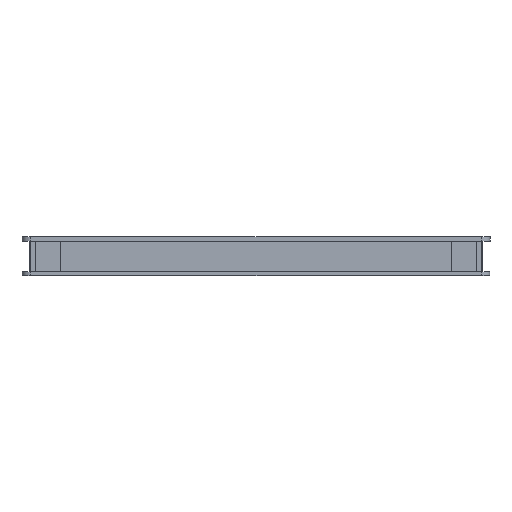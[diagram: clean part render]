
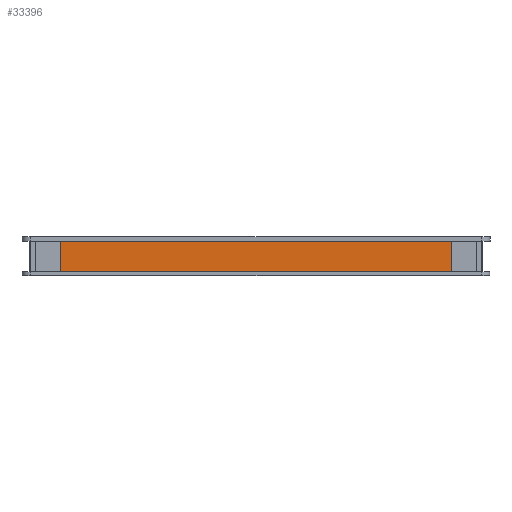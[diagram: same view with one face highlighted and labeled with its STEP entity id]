
A CAD part, front view. The second image highlights one B-rep face of the part: STEP entity #33396.
In plain terms, the highlighted planar face has unit normal (0, -1, 0).
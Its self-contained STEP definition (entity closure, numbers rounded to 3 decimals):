
#729 = FACE_OUTER_BOUND ( 'NONE', #33781, .T. ) ;
#2299 = CARTESIAN_POINT ( 'NONE',  ( 147.017, -255.14, -131.045 ) ) ;
#3261 = VECTOR ( 'NONE', #39197, 1000. ) ;
#3722 = LINE ( 'NONE', #39726, #3261 ) ;
#3903 = CARTESIAN_POINT ( 'NONE',  ( -135.983, -255.14, -111.545 ) ) ;
#3938 = EDGE_CURVE ( 'NONE', #24381, #16056, #23691, .T. ) ;
#5213 = EDGE_CURVE ( 'NONE', #19482, #24381, #14927, .T. ) ;
#9142 = DIRECTION ( 'NONE',  ( 1., 0., 0. ) ) ;
#10937 = AXIS2_PLACEMENT_3D ( 'NONE', #3903, #14163, #35179 ) ;
#11438 = DIRECTION ( 'NONE',  ( 0., 0., -1. ) ) ;
#14163 = DIRECTION ( 'NONE',  ( 0., 1., 0. ) ) ;
#14468 = CARTESIAN_POINT ( 'NONE',  ( -418.983, -255.14, -131.045 ) ) ;
#14927 = LINE ( 'NONE', #32797, #24076 ) ;
#16056 = VERTEX_POINT ( 'NONE', #35306 ) ;
#16227 = PLANE ( 'NONE',  #10937 ) ;
#17766 = EDGE_CURVE ( 'NONE', #16056, #35774, #19297, .T. ) ;
#18721 = EDGE_CURVE ( 'NONE', #35774, #19482, #3722, .T. ) ;
#19297 = LINE ( 'NONE', #2299, #34702 ) ;
#19482 = VERTEX_POINT ( 'NONE', #34309 ) ;
#20778 = VECTOR ( 'NONE', #9142, 1000. ) ;
#23691 = LINE ( 'NONE', #31012, #20778 ) ;
#23870 = DIRECTION ( 'NONE',  ( 0., 0., 1. ) ) ;
#24076 = VECTOR ( 'NONE', #11438, 1000. ) ;
#24381 = VERTEX_POINT ( 'NONE', #14468 ) ;
#25206 = ORIENTED_EDGE ( 'NONE', *, *, #18721, .T. ) ;
#29504 = ORIENTED_EDGE ( 'NONE', *, *, #3938, .T. ) ;
#31012 = CARTESIAN_POINT ( 'NONE',  ( -418.983, -255.14, -131.045 ) ) ;
#32537 = CARTESIAN_POINT ( 'NONE',  ( 147.017, -255.14, -92.045 ) ) ;
#32797 = CARTESIAN_POINT ( 'NONE',  ( -418.983, -255.14, -131.045 ) ) ;
#33396 = ADVANCED_FACE ( 'NONE', ( #729 ), #16227, .F. ) ;
#33781 = EDGE_LOOP ( 'NONE', ( #39703, #25206, #34138, #29504 ) ) ;
#34138 = ORIENTED_EDGE ( 'NONE', *, *, #5213, .T. ) ;
#34309 = CARTESIAN_POINT ( 'NONE',  ( -418.983, -255.14, -92.045 ) ) ;
#34702 = VECTOR ( 'NONE', #23870, 1000. ) ;
#35179 = DIRECTION ( 'NONE',  ( -1., 0., 0. ) ) ;
#35306 = CARTESIAN_POINT ( 'NONE',  ( 147.017, -255.14, -131.045 ) ) ;
#35774 = VERTEX_POINT ( 'NONE', #32537 ) ;
#39197 = DIRECTION ( 'NONE',  ( -1., 0., 0. ) ) ;
#39703 = ORIENTED_EDGE ( 'NONE', *, *, #17766, .T. ) ;
#39726 = CARTESIAN_POINT ( 'NONE',  ( -418.983, -255.14, -92.045 ) ) ;
